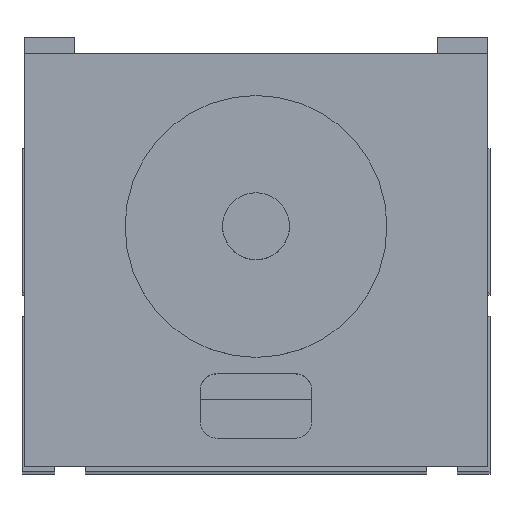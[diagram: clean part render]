
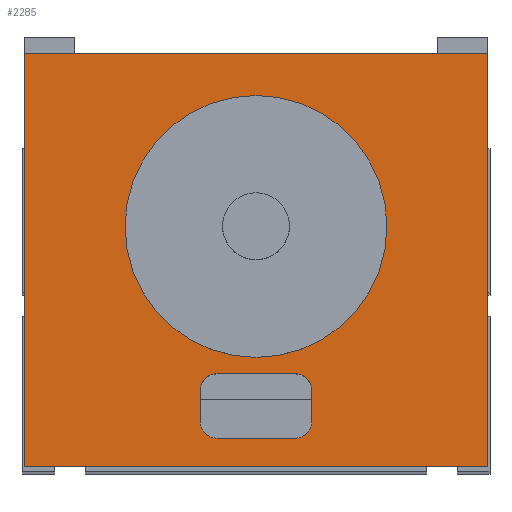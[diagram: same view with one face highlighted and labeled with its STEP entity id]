
A CAD part, top view. The second image highlights one B-rep face of the part: STEP entity #2285.
In plain terms, the highlighted planar face has unit normal (0, 0, 1).
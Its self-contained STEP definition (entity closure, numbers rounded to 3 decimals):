
#256 = VERTEX_POINT ( 'NONE', #1971 ) ;
#259 = VERTEX_POINT ( 'NONE', #2026 ) ;
#360 = EDGE_CURVE ( 'NONE', #256, #259, #2537, .T. ) ;
#587 = VERTEX_POINT ( 'NONE', #2885 ) ;
#633 = EDGE_CURVE ( 'NONE', #587, #635, #3010, .T. ) ;
#635 = VERTEX_POINT ( 'NONE', #2975 ) ;
#655 = ORIENTED_EDGE ( 'NONE', *, *, #2282, .F. ) ;
#656 = ORIENTED_EDGE ( 'NONE', *, *, #671, .F. ) ;
#657 = ORIENTED_EDGE ( 'NONE', *, *, #667, .F. ) ;
#667 = EDGE_CURVE ( 'NONE', #2335, #2286, #3026, .T. ) ;
#668 = ORIENTED_EDGE ( 'NONE', *, *, #2336, .F. ) ;
#671 = EDGE_CURVE ( 'NONE', #814, #2315, #3081, .T. ) ;
#687 = EDGE_CURVE ( 'NONE', #635, #832, #3063, .T. ) ;
#692 = ORIENTED_EDGE ( 'NONE', *, *, #633, .F. ) ;
#696 = ORIENTED_EDGE ( 'NONE', *, *, #687, .F. ) ;
#814 = VERTEX_POINT ( 'NONE', #3280 ) ;
#832 = VERTEX_POINT ( 'NONE', #3250 ) ;
#1971 = CARTESIAN_POINT ( 'NONE',  ( 0., 0., 30. ) ) ;
#2026 = CARTESIAN_POINT ( 'NONE',  ( 83., 0., 30. ) ) ;
#2275 = EDGE_CURVE ( 'NONE', #2280, #587, #4671, .T. ) ;
#2276 = VERTEX_POINT ( 'NONE', #4672 ) ;
#2277 = ORIENTED_EDGE ( 'NONE', *, *, #2300, .T. ) ;
#2278 = EDGE_LOOP ( 'NONE', ( #2288, #2287, #2277, #2279 ) ) ;
#2279 = ORIENTED_EDGE ( 'NONE', *, *, #2281, .T. ) ;
#2280 = VERTEX_POINT ( 'NONE', #4674 ) ;
#2281 = EDGE_CURVE ( 'NONE', #2284, #2276, #4725, .T. ) ;
#2282 = EDGE_CURVE ( 'NONE', #832, #814, #4724, .T. ) ;
#2283 = EDGE_LOOP ( 'NONE', ( #2290, #2289, #657, #668, #656, #655, #696, #692 ) ) ;
#2284 = VERTEX_POINT ( 'NONE', #4714 ) ;
#2285 = ADVANCED_FACE ( 'NONE', ( #4713, #4685 ), #4710, .F. ) ;
#2286 = VERTEX_POINT ( 'NONE', #4692 ) ;
#2287 = ORIENTED_EDGE ( 'NONE', *, *, #360, .T. ) ;
#2288 = ORIENTED_EDGE ( 'NONE', *, *, #2292, .T. ) ;
#2289 = ORIENTED_EDGE ( 'NONE', *, *, #2291, .F. ) ;
#2290 = ORIENTED_EDGE ( 'NONE', *, *, #2275, .F. ) ;
#2291 = EDGE_CURVE ( 'NONE', #2286, #2280, #4727, .T. ) ;
#2292 = EDGE_CURVE ( 'NONE', #2276, #256, #4455, .T. ) ;
#2300 = EDGE_CURVE ( 'NONE', #259, #2284, #4745, .T. ) ;
#2315 = VERTEX_POINT ( 'NONE', #4779 ) ;
#2335 = VERTEX_POINT ( 'NONE', #4805 ) ;
#2336 = EDGE_CURVE ( 'NONE', #2315, #2335, #4820, .T. ) ;
#2534 = DIRECTION ( 'NONE',  ( 1., 0., 0. ) ) ;
#2535 = VECTOR ( 'NONE', #2534, 1000. ) ;
#2536 = CARTESIAN_POINT ( 'NONE',  ( 0., 0., 30. ) ) ;
#2537 = LINE ( 'NONE', #2536, #2535 ) ;
#2885 = CARTESIAN_POINT ( 'NONE',  ( 31.5, 13.6, 30. ) ) ;
#2939 = VECTOR ( 'NONE', #3449, 1000. ) ;
#2975 = CARTESIAN_POINT ( 'NONE',  ( 31.5, 8., 30. ) ) ;
#3007 = DIRECTION ( 'NONE',  ( 0., -1., 0. ) ) ;
#3008 = VECTOR ( 'NONE', #3007, 1000. ) ;
#3009 = CARTESIAN_POINT ( 'NONE',  ( 31.5, 8., 30. ) ) ;
#3010 = LINE ( 'NONE', #3009, #3008 ) ;
#3024 = DIRECTION ( 'NONE',  ( 1., 0., 0. ) ) ;
#3025 = AXIS2_PLACEMENT_3D ( 'NONE', #3035, #3047, #3024 ) ;
#3026 = CIRCLE ( 'NONE', #3025, 3. ) ;
#3035 = CARTESIAN_POINT ( 'NONE',  ( 48.5, 13.6, 30. ) ) ;
#3036 = CARTESIAN_POINT ( 'NONE',  ( 48.5, 8., 30. ) ) ;
#3047 = DIRECTION ( 'NONE',  ( 0., 0., 1. ) ) ;
#3063 = CIRCLE ( 'NONE', #3073, 3. ) ;
#3073 = AXIS2_PLACEMENT_3D ( 'NONE', #3117, #3116, #3115 ) ;
#3078 = DIRECTION ( 'NONE',  ( -1., 0., 0. ) ) ;
#3079 = DIRECTION ( 'NONE',  ( 0., 0., 1. ) ) ;
#3080 = AXIS2_PLACEMENT_3D ( 'NONE', #3036, #3079, #3078 ) ;
#3081 = CIRCLE ( 'NONE', #3080, 3. ) ;
#3115 = DIRECTION ( 'NONE',  ( 1., 0., 0. ) ) ;
#3116 = DIRECTION ( 'NONE',  ( 0., 0., 1. ) ) ;
#3117 = CARTESIAN_POINT ( 'NONE',  ( 34.5, 8., 30. ) ) ;
#3250 = CARTESIAN_POINT ( 'NONE',  ( 34.5, 5., 30. ) ) ;
#3280 = CARTESIAN_POINT ( 'NONE',  ( 48.5, 5., 30. ) ) ;
#3449 = DIRECTION ( 'NONE',  ( -1., 0., 0. ) ) ;
#3462 = DIRECTION ( 'NONE',  ( 0., -1., 0. ) ) ;
#4449 = VECTOR ( 'NONE', #3462, 1000. ) ;
#4454 = CARTESIAN_POINT ( 'NONE',  ( 0., 0., 30. ) ) ;
#4455 = LINE ( 'NONE', #4454, #4449 ) ;
#4671 = CIRCLE ( 'NONE', #4723, 3. ) ;
#4672 = CARTESIAN_POINT ( 'NONE',  ( 0., 74., 30. ) ) ;
#4674 = CARTESIAN_POINT ( 'NONE',  ( 34.5, 16.6, 30. ) ) ;
#4685 = FACE_BOUND ( 'NONE', #2283, .T. ) ;
#4692 = CARTESIAN_POINT ( 'NONE',  ( 48.5, 16.6, 30. ) ) ;
#4707 = DIRECTION ( 'NONE',  ( -1., 0., 0. ) ) ;
#4708 = DIRECTION ( 'NONE',  ( 0., 0., -1. ) ) ;
#4710 = PLANE ( 'NONE',  #4719 ) ;
#4711 = DIRECTION ( 'NONE',  ( 1., 0., 0. ) ) ;
#4712 = VECTOR ( 'NONE', #4711, 1000. ) ;
#4713 = FACE_OUTER_BOUND ( 'NONE', #2278, .T. ) ;
#4714 = CARTESIAN_POINT ( 'NONE',  ( 83., 74., 30. ) ) ;
#4715 = DIRECTION ( 'NONE',  ( -1., 0., 0. ) ) ;
#4716 = VECTOR ( 'NONE', #4715, 1000. ) ;
#4717 = CARTESIAN_POINT ( 'NONE',  ( 0., 74., 30. ) ) ;
#4718 = CARTESIAN_POINT ( 'NONE',  ( 0., 74., 30. ) ) ;
#4719 = AXIS2_PLACEMENT_3D ( 'NONE', #4718, #4708, #4707 ) ;
#4720 = DIRECTION ( 'NONE',  ( -1., 0., 0. ) ) ;
#4721 = DIRECTION ( 'NONE',  ( 0., 0., 1. ) ) ;
#4722 = CARTESIAN_POINT ( 'NONE',  ( 34.5, 13.6, 30. ) ) ;
#4723 = AXIS2_PLACEMENT_3D ( 'NONE', #4722, #4721, #4720 ) ;
#4724 = LINE ( 'NONE', #4728, #4712 ) ;
#4725 = LINE ( 'NONE', #4717, #4716 ) ;
#4726 = CARTESIAN_POINT ( 'NONE',  ( 34.5, 16.6, 30. ) ) ;
#4727 = LINE ( 'NONE', #4726, #2939 ) ;
#4728 = CARTESIAN_POINT ( 'NONE',  ( 34.5, 5., 30. ) ) ;
#4742 = DIRECTION ( 'NONE',  ( 0., 1., 0. ) ) ;
#4743 = VECTOR ( 'NONE', #4742, 1000. ) ;
#4744 = CARTESIAN_POINT ( 'NONE',  ( 83., 0., 30. ) ) ;
#4745 = LINE ( 'NONE', #4744, #4743 ) ;
#4779 = CARTESIAN_POINT ( 'NONE',  ( 51.5, 8., 30. ) ) ;
#4796 = DIRECTION ( 'NONE',  ( 0., 1., 0. ) ) ;
#4797 = VECTOR ( 'NONE', #4796, 1000. ) ;
#4805 = CARTESIAN_POINT ( 'NONE',  ( 51.5, 13.6, 30. ) ) ;
#4819 = CARTESIAN_POINT ( 'NONE',  ( 51.5, 8., 30. ) ) ;
#4820 = LINE ( 'NONE', #4819, #4797 ) ;
